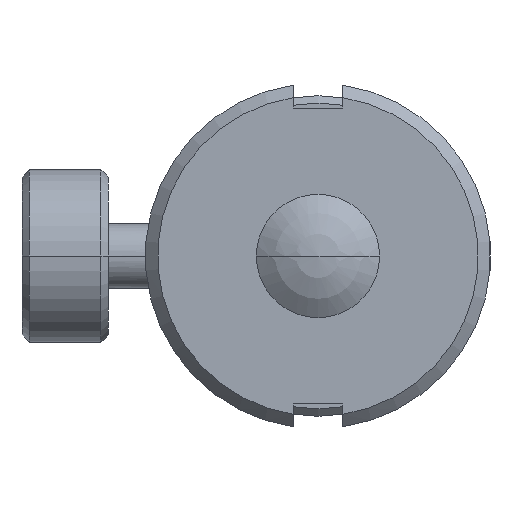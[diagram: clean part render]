
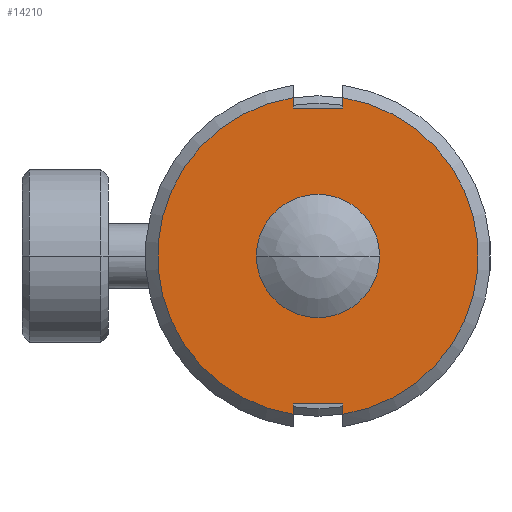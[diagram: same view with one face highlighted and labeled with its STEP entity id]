
A CAD part, left-side view. The second image highlights one B-rep face of the part: STEP entity #14210.
In plain terms, the highlighted planar face has unit normal (-1, 0, 0).
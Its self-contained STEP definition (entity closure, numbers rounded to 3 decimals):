
#3280=CARTESIAN_POINT('',(27.65,121.631,0.));
#3290=DIRECTION('',(-1.,-0.,0.));
#3300=DIRECTION('',(0.,-0.154,-0.988));
#3310=AXIS2_PLACEMENT_3D('',#3280,#3290,#3300);
#3320=CIRCLE('',#3310,6.5);
#3330=CARTESIAN_POINT('',(27.65,120.631,-6.423));
#3340=VERTEX_POINT('',#3330);
#3350=CARTESIAN_POINT('',(27.65,120.631,6.423));
#3360=VERTEX_POINT('',#3350);
#3370=EDGE_CURVE('',#3340,#3360,#3320,.T.);
#4070=CARTESIAN_POINT('',(27.65,120.631,-6.));
#4080=VERTEX_POINT('',#4070);
#4230=CARTESIAN_POINT('',(27.65,122.631,-6.));
#4240=VERTEX_POINT('',#4230);
#4270=CARTESIAN_POINT('',(27.65,120.631,-6.));
#4280=DIRECTION('',(0.,1.,0.));
#4290=VECTOR('',#4280,1.);
#4300=LINE('',#4270,#4290);
#4310=EDGE_CURVE('',#4080,#4240,#4300,.T.);
#5780=CARTESIAN_POINT('',(27.65,120.631,-6.423));
#5790=DIRECTION('',(0.,0.,1.));
#5800=VECTOR('',#5790,1.);
#5810=LINE('',#5780,#5800);
#5820=EDGE_CURVE('',#3340,#4080,#5810,.T.);
#8110=CARTESIAN_POINT('',(27.65,120.631,6.));
#8120=VERTEX_POINT('',#8110);
#8290=CARTESIAN_POINT('',(27.65,120.631,6.));
#8300=DIRECTION('',(0.,0.,1.));
#8310=VECTOR('',#8300,1.);
#8320=LINE('',#8290,#8310);
#8330=EDGE_CURVE('',#8120,#3360,#8320,.T.);
#8490=CARTESIAN_POINT('',(27.65,124.131,0.))
;
#8500=VERTEX_POINT('',#8490);
#8530=CARTESIAN_POINT('',(27.65,121.631,0.));
#8540=DIRECTION('',(1.,0.,-0.));
#8550=DIRECTION('',(0.,1.,0.));
#8560=AXIS2_PLACEMENT_3D('',#8530,#8540,#8550);
#8570=CIRCLE('',#8560,2.5);
#8580=CARTESIAN_POINT('',(27.65,119.131,0.));
#8590=VERTEX_POINT('',#8580);
#8600=EDGE_CURVE('',#8500,#8590,#8570,.T.);
#9680=CARTESIAN_POINT('',(27.65,122.631,-6.423));
#9690=VERTEX_POINT('',#9680);
#9720=CARTESIAN_POINT('',(27.65,122.631,-6.));
#9730=DIRECTION('',(0.,0.,-1.));
#9740=VECTOR('',#9730,1.);
#9750=LINE('',#9720,#9740);
#9760=EDGE_CURVE('',#4240,#9690,#9750,.T.);
#11460=CARTESIAN_POINT('',(27.65,122.631,6.));
#11470=VERTEX_POINT('',#11460);
#11570=CARTESIAN_POINT('',(27.65,122.631,6.));
#11580=DIRECTION('',(0.,-1.,0.));
#11590=VECTOR('',#11580,1.);
#11600=LINE('',#11570,#11590);
#11610=EDGE_CURVE('',#11470,#8120,#11600,.T.);
#11830=CARTESIAN_POINT('',(27.65,122.631,6.423));
#11840=DIRECTION('',(0.,0.,-1.));
#11850=VECTOR('',#11840,1.);
#11860=LINE('',#11830,#11850);
#11870=CARTESIAN_POINT('',(27.65,122.631,6.423));
#11880=VERTEX_POINT('',#11870);
#11890=EDGE_CURVE('',#11880,#11470,#11860,.T.);
#13910=CARTESIAN_POINT('',(27.65,121.631,0.));
#13920=DIRECTION('',(-1.,0.,0.));
#13930=DIRECTION('',(0.,0.154,0.988));
#13940=AXIS2_PLACEMENT_3D('',#13910,#13920,#13930);
#13950=CIRCLE('',#13940,6.5);
#13960=EDGE_CURVE('',#11880,#9690,#13950,.T.);
#14010=CARTESIAN_POINT('',(27.65,126.131,0.));
#14020=DIRECTION('',(-1.,0.,0.));
#14030=DIRECTION('',(0.,1.,0.));
#14040=AXIS2_PLACEMENT_3D('',#14010,#14020,#14030);
#14050=PLANE('',#14040);
#14060=ORIENTED_EDGE('',*,*,#11890,.F.);
#14070=ORIENTED_EDGE('',*,*,#11610,.F.);
#14080=ORIENTED_EDGE('',*,*,#8330,.F.);
#14090=ORIENTED_EDGE('',*,*,#3370,.T.);
#14100=ORIENTED_EDGE('',*,*,#5820,.F.);
#14110=ORIENTED_EDGE('',*,*,#4310,.F.);
#14120=ORIENTED_EDGE('',*,*,#9760,.F.);
#14130=ORIENTED_EDGE('',*,*,#13960,.T.);
#14140=EDGE_LOOP('',(#14130,#14120,#14110,#14100,#14090,#14080,#14070,
#14060));
#14150=FACE_OUTER_BOUND('',#14140,.T.);
#14160=ORIENTED_EDGE('',*,*,#8600,.T.);
#14170=EDGE_CURVE('',#8590,#8500,#8570,.T.);
#14180=ORIENTED_EDGE('',*,*,#14170,.T.);
#14190=EDGE_LOOP('',(#14180,#14160));
#14200=FACE_BOUND('',#14190,.T.);
#14210=ADVANCED_FACE('',(#14150,#14200),#14050,.T.);
